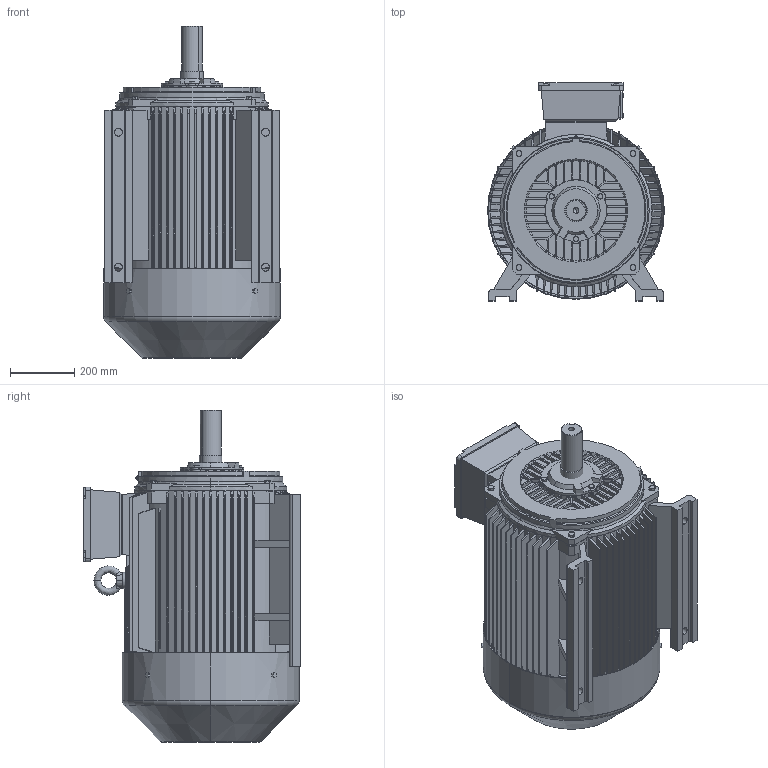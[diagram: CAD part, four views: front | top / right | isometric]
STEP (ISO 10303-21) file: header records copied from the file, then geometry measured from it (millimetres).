
FILE_DESCRIPTION (( 'STEP AP203' ), '1' );
FILE_NAME ('TE3-280M-2K B3上.STEP', '2019-11-25T00:39:08', ( '微软用户' ), ( '微软中国' ), 'SwSTEP 2.0', 'SolidWorks 2012', '' );
FILE_SCHEMA (( 'CONFIG_CONTROL_DESIGN' ));
Products named in the file (15): TE3-280M-2K B3奻; 蚐戚; hexagon head bolts-full thread gb_GB_FASTENER_BOLT_STBAB A M10X30-N; hexagon head bolts-full thread gb_GB_FASTENER_BOLT_STBAB A M12X30-N; eyebolts gb_GB_FASTENER_SCREWS_FRS M24-N; Y2-250~280P24諉盄碟; hexagon head bolts-full thread gb_GB_FASTENER_BOLT_STBAB A M6X16-N; hexagon head bolts-full thread gb_GB_FASTENER_BOLT_STBAB A M8X16-N; 8EJ.353.10039GX250~280P24諉盄碟裔; 8EJ.354.595Y2-250~280P24諉盄碟釱; 8LYX3.280.306.001（风罩YX3-280）; YE3-280-2粣(粣扥); 8SLJ.318.00127（轴承外盖（轴伸）Y2-250-4,6,8）; 8SLJ.013.00102(傷裔Y2-280-2); 8LY2.280.034.002（机座Y2-280M）
Assembly tree (25 placements, depth 3):
  TE3-280M-2K B3奻
    8LY2.280.034.002（机座Y2-280M）
    8SLJ.013.00102(傷裔Y2-280-2)
    8SLJ.318.00127（轴承外盖（轴伸）Y2-250-4,6,8）
    YE3-280-2粣(粣扥)
    8LYX3.280.306.001（风罩YX3-280）
    Y2-250~280P24諉盄碟
      8EJ.354.595Y2-250~280P24諉盄碟釱
      8EJ.353.10039GX250~280P24諉盄碟裔
      hexagon head bolts-full thread gb_GB_FASTENER_BOLT_STBAB A M8X16-N  x4
      hexagon head bolts-full thread gb_GB_FASTENER_BOLT_STBAB A M6X16-N  x4
    eyebolts gb_GB_FASTENER_SCREWS_FRS M24-N
    hexagon head bolts-full thread gb_GB_FASTENER_BOLT_STBAB A M12X30-N  x4
    hexagon head bolts-full thread gb_GB_FASTENER_BOLT_STBAB A M10X30-N  x3
    蚐戚
Bounding box: 549 x 676 x 1030.49 mm (x, y, z)
Volume: 124074525 mm3; surface area: 5958642.4 mm2
Topology: 25 solids, 25 shells, 4539 faces, 11286 edges, 7442 vertices
Faces by surface type: plane 3668, cylinder 397, cone 290, bspline 125, torus 57, sphere 2
Entity records: 210807 total; most frequent: CARTESIAN_POINT 108529, ORIENTED_EDGE 21134, DIRECTION 19039, EDGE_CURVE 10567, LINE 8553, VECTOR 8553, VERTEX_POINT 6999, AXIS2_PLACEMENT_3D 5243
